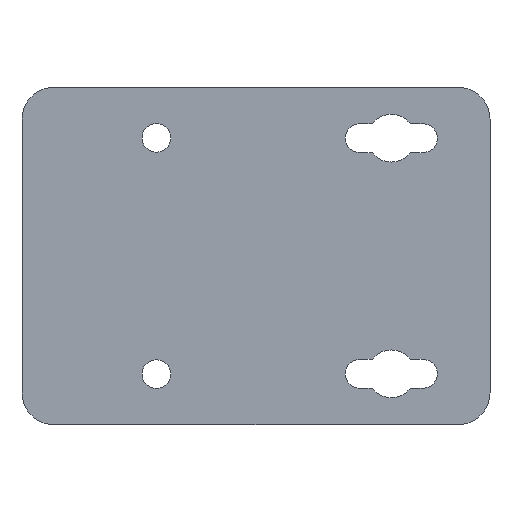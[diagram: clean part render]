
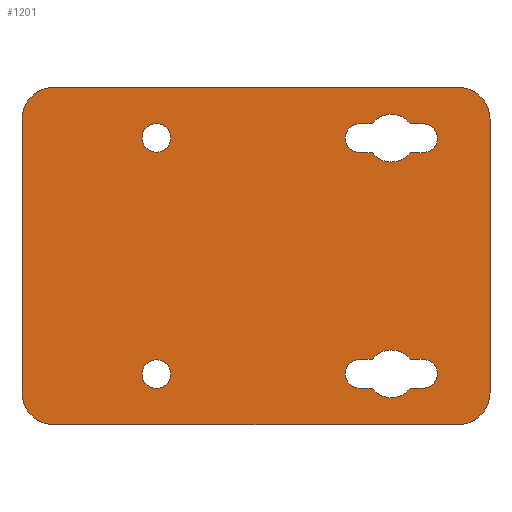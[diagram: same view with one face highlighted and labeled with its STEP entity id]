
A CAD part, front view. The second image highlights one B-rep face of the part: STEP entity #1201.
In plain terms, the highlighted planar face has unit normal (0, -1, 0).
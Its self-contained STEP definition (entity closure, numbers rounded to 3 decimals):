
#274=DIRECTION('',(-1.,0.,0.));
#275=VECTOR('',#274,63.5);
#276=CARTESIAN_POINT('',(37.,-2.,26.5));
#277=LINE('',#276,#275);
#302=DIRECTION('',(-1.,0.,0.));
#303=VECTOR('',#302,63.5);
#304=CARTESIAN_POINT('',(37.,-2.,-26.5));
#305=LINE('',#304,#303);
#330=DIRECTION('',(0.,0.,1.));
#331=VECTOR('',#330,43.);
#332=CARTESIAN_POINT('',(-31.5,-2.,-21.5));
#333=LINE('',#332,#331);
#351=CARTESIAN_POINT('',(-10.4,-2.,-18.55));
#352=DIRECTION('',(0.,1.,0.));
#353=DIRECTION('',(1.,0.,0.));
#354=AXIS2_PLACEMENT_3D('',#351,#352,#353);
#359=CARTESIAN_POINT('',(-10.4,-2.,-18.55));
#360=DIRECTION('',(0.,1.,0.));
#361=DIRECTION('',(-1.,0.,0.));
#362=AXIS2_PLACEMENT_3D('',#359,#360,#361);
#367=CARTESIAN_POINT('',(-10.4,-2.,18.55));
#368=DIRECTION('',(0.,1.,0.));
#369=DIRECTION('',(1.,0.,0.));
#370=AXIS2_PLACEMENT_3D('',#367,#368,#369);
#375=CARTESIAN_POINT('',(-10.4,-2.,18.55));
#376=DIRECTION('',(0.,1.,0.));
#377=DIRECTION('',(-1.,0.,0.));
#378=AXIS2_PLACEMENT_3D('',#375,#376,#377);
#383=CARTESIAN_POINT('',(-26.5,-2.,21.5));
#384=DIRECTION('',(0.,-1.,0.));
#385=DIRECTION('',(0.,0.,1.));
#386=AXIS2_PLACEMENT_3D('',#383,#384,#385);
#391=CARTESIAN_POINT('',(37.,-2.,21.5));
#392=DIRECTION('',(0.,-1.,0.));
#393=DIRECTION('',(1.,0.,0.));
#394=AXIS2_PLACEMENT_3D('',#391,#392,#393);
#399=DIRECTION('',(0.,0.,1.));
#400=VECTOR('',#399,43.);
#401=CARTESIAN_POINT('',(42.,-2.,-21.5));
#402=LINE('',#401,#400);
#406=CARTESIAN_POINT('',(37.,-2.,-21.5));
#407=DIRECTION('',(0.,-1.,0.));
#408=DIRECTION('',(0.,0.,-1.));
#409=AXIS2_PLACEMENT_3D('',#406,#407,#408);
#414=CARTESIAN_POINT('',(-26.5,-2.,-21.5));
#415=DIRECTION('',(0.,-1.,0.));
#416=DIRECTION('',(-1.,0.,0.));
#417=AXIS2_PLACEMENT_3D('',#414,#415,#416);
#422=CARTESIAN_POINT('',(21.5,-2.,-18.5));
#423=DIRECTION('',(0.,1.,0.));
#424=DIRECTION('',(0.,0.,-1.));
#425=AXIS2_PLACEMENT_3D('',#422,#423,#424);
#430=DIRECTION('',(1.,0.,0.));
#431=VECTOR('',#430,2.);
#432=CARTESIAN_POINT('',(21.5,-2.,-20.75));
#433=LINE('',#432,#431);
#437=CARTESIAN_POINT('',(26.5,-2.,-18.5));
#438=DIRECTION('',(0.,1.,0.));
#439=DIRECTION('',(0.,0.,-1.));
#440=AXIS2_PLACEMENT_3D('',#437,#438,#439);
#445=CARTESIAN_POINT('',(26.5,-2.,-18.5));
#446=DIRECTION('',(0.,1.,0.));
#447=DIRECTION('',(0.8,0.,-0.6));
#448=AXIS2_PLACEMENT_3D('',#445,#446,#447);
#453=DIRECTION('',(1.,0.,0.));
#454=VECTOR('',#453,2.);
#455=CARTESIAN_POINT('',(29.5,-2.,-20.75));
#456=LINE('',#455,#454);
#460=CARTESIAN_POINT('',(31.5,-2.,-18.5));
#461=DIRECTION('',(0.,1.,0.));
#462=DIRECTION('',(0.,0.,1.));
#463=AXIS2_PLACEMENT_3D('',#460,#461,#462);
#468=DIRECTION('',(-1.,0.,0.));
#469=VECTOR('',#468,2.);
#470=CARTESIAN_POINT('',(31.5,-2.,-16.25));
#471=LINE('',#470,#469);
#475=CARTESIAN_POINT('',(26.5,-2.,-18.5));
#476=DIRECTION('',(0.,1.,0.));
#477=DIRECTION('',(0.,0.,1.));
#478=AXIS2_PLACEMENT_3D('',#475,#476,#477);
#483=CARTESIAN_POINT('',(26.5,-2.,-18.5));
#484=DIRECTION('',(0.,1.,0.));
#485=DIRECTION('',(-0.8,0.,0.6));
#486=AXIS2_PLACEMENT_3D('',#483,#484,#485);
#491=DIRECTION('',(-1.,0.,0.));
#492=VECTOR('',#491,2.);
#493=CARTESIAN_POINT('',(23.5,-2.,-16.25));
#494=LINE('',#493,#492);
#498=CARTESIAN_POINT('',(21.5,-2.,18.5));
#499=DIRECTION('',(0.,1.,0.));
#500=DIRECTION('',(0.,0.,-1.));
#501=AXIS2_PLACEMENT_3D('',#498,#499,#500);
#506=DIRECTION('',(1.,0.,0.));
#507=VECTOR('',#506,2.);
#508=CARTESIAN_POINT('',(21.5,-2.,16.25));
#509=LINE('',#508,#507);
#513=CARTESIAN_POINT('',(26.5,-2.,18.5));
#514=DIRECTION('',(0.,1.,0.));
#515=DIRECTION('',(0.,0.,-1.));
#516=AXIS2_PLACEMENT_3D('',#513,#514,#515);
#521=CARTESIAN_POINT('',(26.5,-2.,18.5));
#522=DIRECTION('',(0.,1.,0.));
#523=DIRECTION('',(0.8,0.,-0.6));
#524=AXIS2_PLACEMENT_3D('',#521,#522,#523);
#529=DIRECTION('',(1.,0.,0.));
#530=VECTOR('',#529,2.);
#531=CARTESIAN_POINT('',(29.5,-2.,16.25));
#532=LINE('',#531,#530);
#536=CARTESIAN_POINT('',(31.5,-2.,18.5));
#537=DIRECTION('',(0.,1.,0.));
#538=DIRECTION('',(0.,0.,1.));
#539=AXIS2_PLACEMENT_3D('',#536,#537,#538);
#544=DIRECTION('',(-1.,0.,0.));
#545=VECTOR('',#544,2.);
#546=CARTESIAN_POINT('',(31.5,-2.,20.75));
#547=LINE('',#546,#545);
#551=CARTESIAN_POINT('',(26.5,-2.,18.5));
#552=DIRECTION('',(0.,1.,0.));
#553=DIRECTION('',(0.,0.,1.));
#554=AXIS2_PLACEMENT_3D('',#551,#552,#553);
#559=CARTESIAN_POINT('',(26.5,-2.,18.5));
#560=DIRECTION('',(0.,1.,0.));
#561=DIRECTION('',(-0.8,0.,0.6));
#562=AXIS2_PLACEMENT_3D('',#559,#560,#561);
#567=DIRECTION('',(-1.,0.,0.));
#568=VECTOR('',#567,2.);
#569=CARTESIAN_POINT('',(23.5,-2.,20.75));
#570=LINE('',#569,#568);
#802=CARTESIAN_POINT('',(-8.15,-2.,18.55));
#803=CARTESIAN_POINT('',(-12.65,-2.,18.55));
#804=VERTEX_POINT('',#802);
#805=VERTEX_POINT('',#803);
#806=CARTESIAN_POINT('',(-8.15,-2.,-18.55));
#807=CARTESIAN_POINT('',(-12.65,-2.,-18.55));
#808=VERTEX_POINT('',#806);
#809=VERTEX_POINT('',#807);
#814=CARTESIAN_POINT('',(31.5,-2.,20.75));
#815=CARTESIAN_POINT('',(31.5,-2.,16.25));
#816=VERTEX_POINT('',#814);
#817=VERTEX_POINT('',#815);
#822=CARTESIAN_POINT('',(31.5,-2.,-16.25));
#823=CARTESIAN_POINT('',(31.5,-2.,-20.75));
#824=VERTEX_POINT('',#822);
#825=VERTEX_POINT('',#823);
#830=CARTESIAN_POINT('',(-26.5,-2.,26.5));
#831=VERTEX_POINT('',#830);
#832=CARTESIAN_POINT('',(-31.5,-2.,21.5));
#833=VERTEX_POINT('',#832);
#838=CARTESIAN_POINT('',(-31.5,-2.,-21.5));
#839=VERTEX_POINT('',#838);
#840=CARTESIAN_POINT('',(-26.5,-2.,-26.5));
#841=VERTEX_POINT('',#840);
#846=CARTESIAN_POINT('',(37.,-2.,-26.5));
#847=VERTEX_POINT('',#846);
#848=CARTESIAN_POINT('',(42.,-2.,-21.5));
#849=VERTEX_POINT('',#848);
#854=CARTESIAN_POINT('',(42.,-2.,21.5));
#855=VERTEX_POINT('',#854);
#856=CARTESIAN_POINT('',(37.,-2.,26.5));
#857=VERTEX_POINT('',#856);
#890=CARTESIAN_POINT('',(26.5,-2.,-14.75));
#891=CARTESIAN_POINT('',(29.5,-2.,-16.25));
#892=VERTEX_POINT('',#890);
#893=VERTEX_POINT('',#891);
#894=CARTESIAN_POINT('',(29.5,-2.,-20.75));
#895=CARTESIAN_POINT('',(26.5,-2.,-22.25));
#896=VERTEX_POINT('',#894);
#897=VERTEX_POINT('',#895);
#898=CARTESIAN_POINT('',(26.5,-2.,22.25));
#899=CARTESIAN_POINT('',(29.5,-2.,20.75));
#900=VERTEX_POINT('',#898);
#901=VERTEX_POINT('',#899);
#902=CARTESIAN_POINT('',(29.5,-2.,16.25));
#903=CARTESIAN_POINT('',(26.5,-2.,14.75));
#904=VERTEX_POINT('',#902);
#905=VERTEX_POINT('',#903);
#922=CARTESIAN_POINT('',(21.5,-2.,16.25));
#923=CARTESIAN_POINT('',(21.5,-2.,20.75));
#924=VERTEX_POINT('',#922);
#925=VERTEX_POINT('',#923);
#926=CARTESIAN_POINT('',(23.5,-2.,16.25));
#927=VERTEX_POINT('',#926);
#928=CARTESIAN_POINT('',(23.5,-2.,20.75));
#929=VERTEX_POINT('',#928);
#930=CARTESIAN_POINT('',(21.5,-2.,-20.75));
#931=CARTESIAN_POINT('',(21.5,-2.,-16.25));
#932=VERTEX_POINT('',#930);
#933=VERTEX_POINT('',#931);
#934=CARTESIAN_POINT('',(23.5,-2.,-20.75));
#935=VERTEX_POINT('',#934);
#936=CARTESIAN_POINT('',(23.5,-2.,-16.25));
#937=VERTEX_POINT('',#936);
#1130=CARTESIAN_POINT('',(42.,-2.,-26.5));
#1131=DIRECTION('',(0.,1.,0.));
#1132=DIRECTION('',(-1.,0.,0.));
#1133=AXIS2_PLACEMENT_3D('',#1130,#1131,#1132);
#1134=PLANE('',#1133);
#1135=ORIENTED_EDGE('',*,*,#1026,.F.);
#1136=ORIENTED_EDGE('',*,*,#1042,.F.);
#1137=ORIENTED_EDGE('',*,*,#1055,.F.);
#1138=ORIENTED_EDGE('',*,*,#1068,.F.);
#1139=ORIENTED_EDGE('',*,*,#1083,.F.);
#1140=ORIENTED_EDGE('',*,*,#1096,.T.);
#1141=ORIENTED_EDGE('',*,*,#1111,.F.);
#1142=ORIENTED_EDGE('',*,*,#1123,.T.);
#1143=EDGE_LOOP('',(#1135,#1136,#1137,#1138,#1139,#1140,#1141,#1142));
#1144=FACE_OUTER_BOUND('',#1143,.F.);
#1146=ORIENTED_EDGE('',*,*,#1145,.F.);
#1148=ORIENTED_EDGE('',*,*,#1147,.F.);
#1149=EDGE_LOOP('',(#1146,#1148));
#1150=FACE_BOUND('',#1149,.F.);
#1152=ORIENTED_EDGE('',*,*,#1151,.F.);
#1154=ORIENTED_EDGE('',*,*,#1153,.F.);
#1155=EDGE_LOOP('',(#1152,#1154));
#1156=FACE_BOUND('',#1155,.F.);
#1158=ORIENTED_EDGE('',*,*,#1157,.F.);
#1160=ORIENTED_EDGE('',*,*,#1159,.T.);
#1162=ORIENTED_EDGE('',*,*,#1161,.F.);
#1164=ORIENTED_EDGE('',*,*,#1163,.F.);
#1166=ORIENTED_EDGE('',*,*,#1165,.T.);
#1168=ORIENTED_EDGE('',*,*,#1167,.F.);
#1170=ORIENTED_EDGE('',*,*,#1169,.T.);
#1172=ORIENTED_EDGE('',*,*,#1171,.F.);
#1174=ORIENTED_EDGE('',*,*,#1173,.F.);
#1176=ORIENTED_EDGE('',*,*,#1175,.T.);
#1177=EDGE_LOOP('',(#1158,#1160,#1162,#1164,#1166,#1168,#1170,#1172,#1174,
#1176));
#1178=FACE_BOUND('',#1177,.F.);
#1180=ORIENTED_EDGE('',*,*,#1179,.F.);
#1182=ORIENTED_EDGE('',*,*,#1181,.T.);
#1184=ORIENTED_EDGE('',*,*,#1183,.F.);
#1186=ORIENTED_EDGE('',*,*,#1185,.F.);
#1188=ORIENTED_EDGE('',*,*,#1187,.T.);
#1190=ORIENTED_EDGE('',*,*,#1189,.F.);
#1192=ORIENTED_EDGE('',*,*,#1191,.T.);
#1194=ORIENTED_EDGE('',*,*,#1193,.F.);
#1196=ORIENTED_EDGE('',*,*,#1195,.F.);
#1198=ORIENTED_EDGE('',*,*,#1197,.T.);
#1199=EDGE_LOOP('',(#1180,#1182,#1184,#1186,#1188,#1190,#1192,#1194,#1196,
#1198));
#1200=FACE_BOUND('',#1199,.F.);
#355=CIRCLE('',#354,2.25);
#363=CIRCLE('',#362,2.25);
#371=CIRCLE('',#370,2.25);
#379=CIRCLE('',#378,2.25);
#387=CIRCLE('',#386,5.);
#395=CIRCLE('',#394,5.);
#410=CIRCLE('',#409,5.);
#418=CIRCLE('',#417,5.);
#426=CIRCLE('',#425,2.25);
#441=CIRCLE('',#440,3.75);
#449=CIRCLE('',#448,3.75);
#464=CIRCLE('',#463,2.25);
#479=CIRCLE('',#478,3.75);
#487=CIRCLE('',#486,3.75);
#502=CIRCLE('',#501,2.25);
#517=CIRCLE('',#516,3.75);
#525=CIRCLE('',#524,3.75);
#540=CIRCLE('',#539,2.25);
#555=CIRCLE('',#554,3.75);
#563=CIRCLE('',#562,3.75);
#1026=EDGE_CURVE('',#831,#833,#387,.T.);
#1042=EDGE_CURVE('',#857,#831,#277,.T.);
#1055=EDGE_CURVE('',#855,#857,#395,.T.);
#1068=EDGE_CURVE('',#849,#855,#402,.T.);
#1083=EDGE_CURVE('',#847,#849,#410,.T.);
#1096=EDGE_CURVE('',#847,#841,#305,.T.);
#1111=EDGE_CURVE('',#839,#841,#418,.T.);
#1123=EDGE_CURVE('',#839,#833,#333,.T.);
#1145=EDGE_CURVE('',#804,#805,#371,.T.);
#1147=EDGE_CURVE('',#805,#804,#379,.T.);
#1151=EDGE_CURVE('',#808,#809,#355,.T.);
#1153=EDGE_CURVE('',#809,#808,#363,.T.);
#1157=EDGE_CURVE('',#932,#933,#426,.T.);
#1159=EDGE_CURVE('',#932,#935,#433,.T.);
#1161=EDGE_CURVE('',#897,#935,#441,.T.);
#1163=EDGE_CURVE('',#896,#897,#449,.T.);
#1165=EDGE_CURVE('',#896,#825,#456,.T.);
#1167=EDGE_CURVE('',#824,#825,#464,.T.);
#1169=EDGE_CURVE('',#824,#893,#471,.T.);
#1171=EDGE_CURVE('',#892,#893,#479,.T.);
#1173=EDGE_CURVE('',#937,#892,#487,.T.);
#1175=EDGE_CURVE('',#937,#933,#494,.T.);
#1179=EDGE_CURVE('',#924,#925,#502,.T.);
#1181=EDGE_CURVE('',#924,#927,#509,.T.);
#1183=EDGE_CURVE('',#905,#927,#517,.T.);
#1185=EDGE_CURVE('',#904,#905,#525,.T.);
#1187=EDGE_CURVE('',#904,#817,#532,.T.);
#1189=EDGE_CURVE('',#816,#817,#540,.T.);
#1191=EDGE_CURVE('',#816,#901,#547,.T.);
#1193=EDGE_CURVE('',#900,#901,#555,.T.);
#1195=EDGE_CURVE('',#929,#900,#563,.T.);
#1197=EDGE_CURVE('',#929,#925,#570,.T.);
#1201=ADVANCED_FACE('',(#1144,#1150,#1156,#1178,#1200),#1134,.F.);
